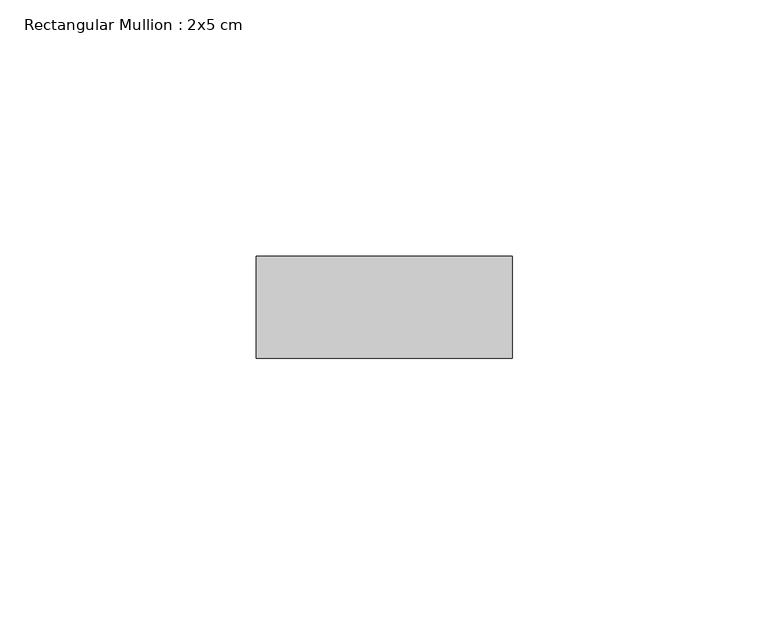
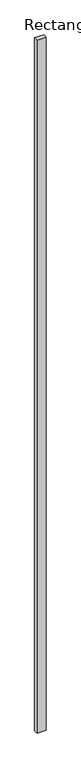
"""IFC4 building model written with IfcOpenShell, lengths in millimetres: member geometry, Rectangular Mullion : 2x5 cm."""

from ifc_helpers import new_model, si_unit, frame, origin, place, context, project, spatial, polyline, outline, extrude, source, transform, mapped, element, save


def rectangular_mullion_2x5_cm_52a96670(model_context):
    return source(origin(), model_context, "Body", "SweptSolid", [
        extrude(outline(polyline([(50.0, 20.0), (50.0, 0.0), (0.0, 0.0), (0.0, 20.0), (50.0, 20.0)])), frame((0.0, 0.0, -3928.0883013), z_axis=(0.0, 0.0, 1.0), x_axis=(1.0, 0.0, 0.0)), (0.0, 0.0, 1.0), 3928.0883013),
    ])


if __name__ == "__main__":
    model = new_model("IFC4")
    model_context = context("Model", 3, world=origin())
    ifc_project = project(units=[si_unit("LENGTHUNIT", "METRE", prefix="MILLI")], contexts=[model_context])
    site = spatial("IfcSite", under=ifc_project)
    building = spatial("IfcBuilding", under=site)
    placement = place(None, origin())
    rectangular_mullion_2x5_cm_shape = rectangular_mullion_2x5_cm_52a96670(model_context)
    element("IfcMember", 1, ObjectType="Rectangular Mullion : 2x5 cm", at=placement, inside=building, context=model_context, shape_type="MappedRepresentation", body=[
        mapped(rectangular_mullion_2x5_cm_shape, transform((0.0, 0.0, 0.0), x_axis=(1.0, 0.0, 0.0), y_axis=(0.0, 1.0, 0.0), z_axis=(0.0, 0.0, 1.0))),
    ])
    save(model, "model.ifc")
